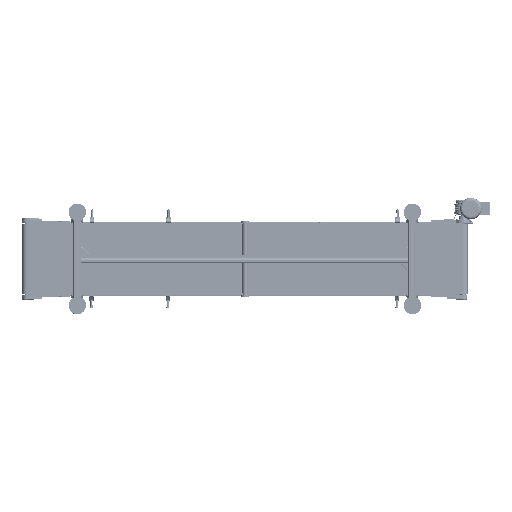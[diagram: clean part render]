
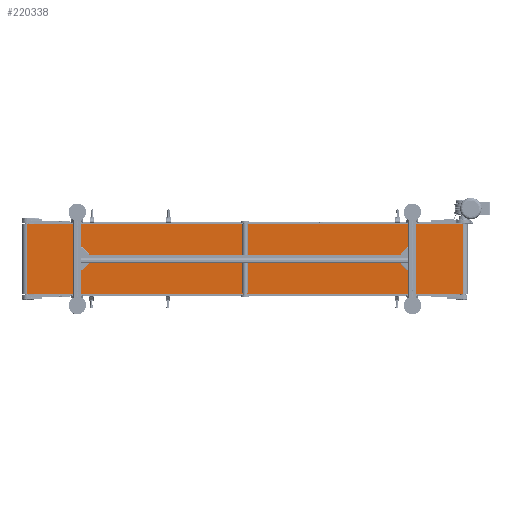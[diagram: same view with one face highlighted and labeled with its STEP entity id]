
A CAD part, front view. The second image highlights one B-rep face of the part: STEP entity #220338.
In plain terms, the highlighted planar face has unit normal (0, -1, 0).
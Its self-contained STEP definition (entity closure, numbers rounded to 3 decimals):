
#1603 = DIRECTION ( 'NONE',  ( 0., 0., -1. ) ) ;
#5408 = ORIENTED_EDGE ( 'NONE', *, *, #132159, .F. ) ;
#14826 = EDGE_LOOP ( 'NONE', ( #203530, #5408, #172199, #75673 ) ) ;
#18192 = DIRECTION ( 'NONE',  ( 1., 0., 0. ) ) ;
#20882 = VERTEX_POINT ( 'NONE', #151830 ) ;
#27512 = VECTOR ( 'NONE', #18192, 1000. ) ;
#42860 = CARTESIAN_POINT ( 'NONE',  ( -1250., -27., -200. ) ) ;
#45633 = DIRECTION ( 'NONE',  ( 0., 0., 1. ) ) ;
#67474 = CARTESIAN_POINT ( 'NONE',  ( -1250., -27., 200. ) ) ;
#75673 = ORIENTED_EDGE ( 'NONE', *, *, #176258, .T. ) ;
#78584 = VERTEX_POINT ( 'NONE', #242145 ) ;
#90017 = CARTESIAN_POINT ( 'NONE',  ( -1250., -27., -200. ) ) ;
#109820 = CARTESIAN_POINT ( 'NONE',  ( 1250., -27., 200. ) ) ;
#112504 = DIRECTION ( 'NONE',  ( 1., 0., 0. ) ) ;
#116871 = VERTEX_POINT ( 'NONE', #109820 ) ;
#126136 = LINE ( 'NONE', #209643, #265493 ) ;
#126434 = DIRECTION ( 'NONE',  ( 0., 1., 0. ) ) ;
#131416 = EDGE_CURVE ( 'NONE', #201218, #20882, #252235, .T. ) ;
#132159 = EDGE_CURVE ( 'NONE', #116871, #20882, #143488, .T. ) ;
#143488 = LINE ( 'NONE', #206493, #184711 ) ;
#145439 = LINE ( 'NONE', #205737, #27512 ) ;
#151830 = CARTESIAN_POINT ( 'NONE',  ( 1250., -27., -200. ) ) ;
#172199 = ORIENTED_EDGE ( 'NONE', *, *, #215629, .F. ) ;
#176258 = EDGE_CURVE ( 'NONE', #78584, #201218, #126136, .T. ) ;
#177921 = FACE_OUTER_BOUND ( 'NONE', #14826, .T. ) ;
#184711 = VECTOR ( 'NONE', #188678, 1000. ) ;
#188678 = DIRECTION ( 'NONE',  ( 0., 0., -1. ) ) ;
#201218 = VERTEX_POINT ( 'NONE', #90017 ) ;
#203530 = ORIENTED_EDGE ( 'NONE', *, *, #131416, .T. ) ;
#203927 = AXIS2_PLACEMENT_3D ( 'NONE', #67474, #126434, #45633 ) ;
#205737 = CARTESIAN_POINT ( 'NONE',  ( -1250., -27., 200. ) ) ;
#206493 = CARTESIAN_POINT ( 'NONE',  ( 1250., -27., 200. ) ) ;
#209643 = CARTESIAN_POINT ( 'NONE',  ( -1250., -27., 200. ) ) ;
#215629 = EDGE_CURVE ( 'NONE', #78584, #116871, #145439, .T. ) ;
#220338 = ADVANCED_FACE ( 'NONE', ( #177921 ), #261398, .F. ) ;
#242145 = CARTESIAN_POINT ( 'NONE',  ( -1250., -27., 200. ) ) ;
#252235 = LINE ( 'NONE', #42860, #263040 ) ;
#261398 = PLANE ( 'NONE',  #203927 ) ;
#263040 = VECTOR ( 'NONE', #112504, 1000. ) ;
#265493 = VECTOR ( 'NONE', #1603, 1000. ) ;
